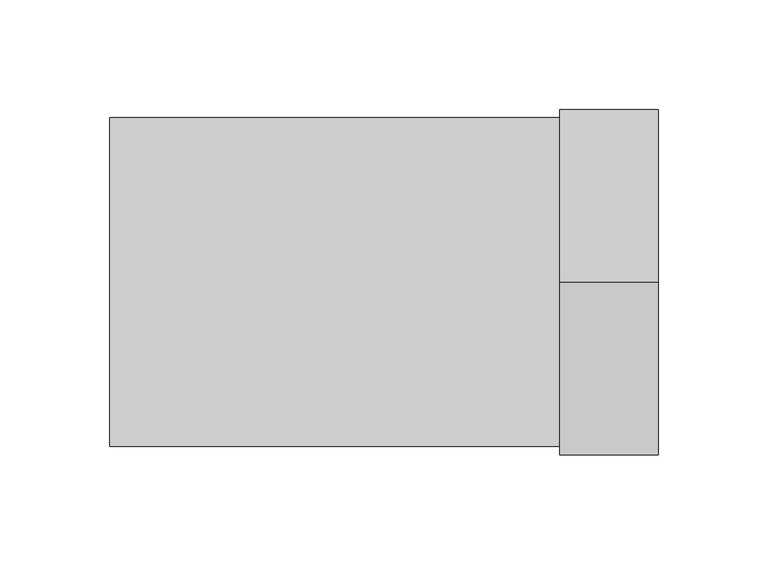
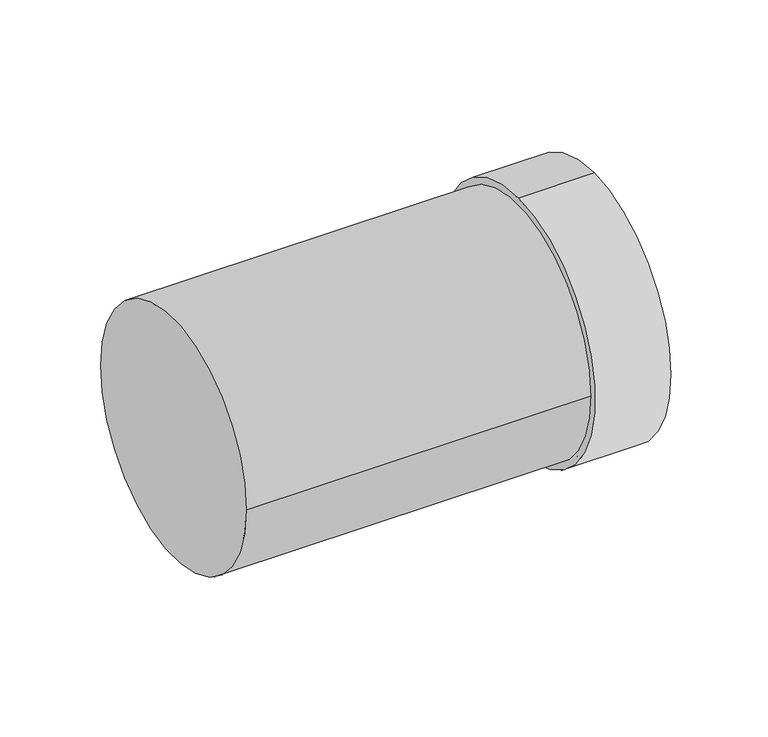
"""IFC4 building model written with IfcOpenShell, lengths in millimetres: duct fitting geometry, RSFen_DUF_UN_Twinline Extension_M&G : ø130-150-200."""

from ifc_helpers import new_model, si_unit, point, frame, origin, origin_2d, place, context, project, spatial, polyline, circle_curve, trimmed, segment, composite_curve, outline, extrude, source, transform, mapped, element, save
from ifc_brep_helpers import plane_surface, cylinder_surface, revolved_surface, advanced_brep


def duct_fitting_e9746d7f(model_context):
    return source(origin(), model_context, "Body", "SolidModel", [
        advanced_brep(
        [(250.0, 0.0, -79.0), (250.0, 0.0, 79.0), (250.0, 0.0, 75.5), (250.0, 0.0, -75.5), (205.0, 0.0, -79.0), (205.0, 0.0, 79.0), (210.0, 0.0, -75.5), (210.0, 0.0, 75.5)],
        [
            (0, 1, circle_curve(frame((250.0, 0.0, 0.0), z_axis=(1.0, 0.0, 0.0), x_axis=(0.0, 0.0, 1.0)), 79.0)),
            (1, 0, circle_curve(frame((250.0, 0.0, 0.0), z_axis=(1.0, 0.0, 0.0), x_axis=(0.0, 0.0, 1.0)), 79.0)),
            (2, 3, circle_curve(frame((250.0, 0.0, 0.0), z_axis=(-1.0, 0.0, 0.0), x_axis=(0.0, 0.0, 1.0)), 75.5)),
            (3, 2, circle_curve(frame((250.0, 0.0, 0.0), z_axis=(-1.0, 0.0, 0.0), x_axis=(0.0, 0.0, 1.0)), 75.5)),
            (4, 5, circle_curve(frame((205.0, 0.0, 0.0), z_axis=(-1.0, 0.0, 0.0), x_axis=(0.0, 0.0, 1.0)), 79.0)),
            (5, 4, circle_curve(frame((205.0, 0.0, 0.0), z_axis=(-1.0, 0.0, 0.0), x_axis=(0.0, 0.0, 1.0)), 79.0)),
            (0, 4),
            (5, 1),
            (6, 7, circle_curve(frame((210.0, 0.0, 0.0), z_axis=(1.0, 0.0, 0.0), x_axis=(0.0, 0.0, 1.0)), 75.5)),
            (7, 6, circle_curve(frame((210.0, 0.0, 0.0), z_axis=(1.0, 0.0, 0.0), x_axis=(0.0, 0.0, 1.0)), 75.5)),
            (6, 3),
            (2, 7),
        ],
        [
            plane_surface(frame((250.0, 0.0, 79.0), z_axis=(1.0, 0.0, 0.0), x_axis=(0.0, -1.0, 0.0))),
            plane_surface(frame((205.0, 0.0, 79.0), z_axis=(-1.0, 0.0, 0.0), x_axis=(0.0, 1.0, 0.0))),
            cylinder_surface(frame((205.0, 0.0, 0.0), z_axis=(1.0, 0.0, 0.0), x_axis=(0.0, 0.0, 1.0)), 79.0),
            plane_surface(frame((210.0, 0.0, 75.5), z_axis=(1.0, 0.0, 0.0), x_axis=(0.0, 1.0, 0.0))),
            revolved_surface(polyline([(250.0, 0.0, 75.5), (210.0, 0.0, 75.5)]), (210.0, 0.0, 0.0), (1.0, 0.0, 0.0)),
        ],
        [
            (0, [[1, 2], [3, 4]]),
            (1, [[5, 6]]),
            (2, [[-1, 7, -6, 8]]),
            (2, [[-2, -8, -5, -7]]),
            (3, [[9, 10]]),
            (4, [[-9, 11, -3, 12]]),
            (4, [[-10, -12, -4, -11]]),
        ],
    ),
        extrude(outline(composite_curve([segment(trimmed(circle_curve(origin_2d(), 75.0), [point((75.0, 0.0))], [point((-75.0, 0.0))], False, "CARTESIAN"), True, "CONTINUOUS"), segment(trimmed(circle_curve(origin_2d(), 75.0), [point((-75.0, 0.0))], [point((75.0, 0.0))], False, "CARTESIAN"), True, "CONTINUOUS")], self_intersect=False)), frame((-2.39e-05, 0.0, 0.0), z_axis=(1.0, 0.0, 0.0), x_axis=(0.0, 1.0, 0.0)), (0.0, 0.0, 1.0), 210.0),
    ])


if __name__ == "__main__":
    model = new_model("IFC4")
    model_context = context("Model", 3, world=origin())
    ifc_project = project(units=[si_unit("LENGTHUNIT", "METRE", prefix="MILLI")], contexts=[model_context])
    site = spatial("IfcSite", under=ifc_project)
    building = spatial("IfcBuilding", under=site)
    placement = place(None, origin())
    duct_fitting_shape = duct_fitting_e9746d7f(model_context)
    element("IfcDuctFitting", 1, ObjectType="RSFen_DUF_UN_Twinline Extension_M&G : ø130-150-200", at=placement, inside=building, context=model_context, shape_type="MappedRepresentation", body=[
        mapped(duct_fitting_shape, transform((0.0, 0.0, 0.0), x_axis=(1.0, 0.0, 0.0), y_axis=(0.0, 1.0, 0.0), z_axis=(0.0, 0.0, 1.0))),
    ])
    save(model, "model.ifc")
